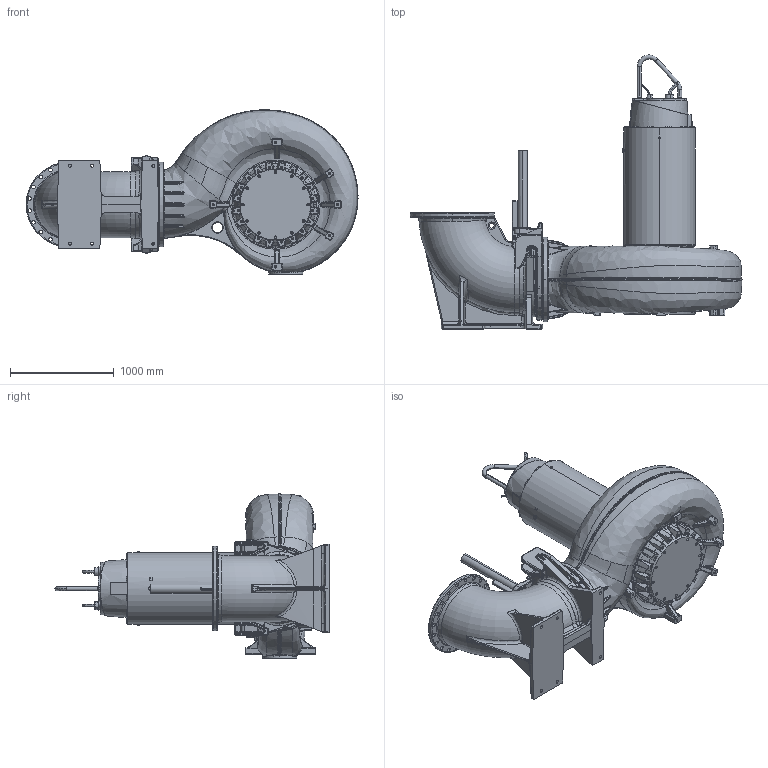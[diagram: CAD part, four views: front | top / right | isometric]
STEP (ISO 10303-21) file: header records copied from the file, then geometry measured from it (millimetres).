
FILE_DESCRIPTION (( 'STEP AP214' ), '1' );
FILE_NAME ('PE6_XFP600X-SK3_WET_B_NG2.STEP', '2017-03-30T08:39:45', ( '' ), ( '' ), 'SwSTEP 2.0', 'SolidWorks 2017', '' );
FILE_SCHEMA (( 'AUTOMOTIVE_DESIGN' ));
Length unit declared in the file: millimetre
Products named in the file (1): PE6_XFP600X-SK3_WET_B_NG2
Bounding box: 3196.1 x 2638.31 x 1582.72 mm (x, y, z)
Volume: 2146862648.2 mm3; surface area: 20782840.5 mm2
Topology: 4 solids, 38 shells, 4625 faces, 11196 edges, 6352 vertices
Faces by surface type: bspline 1451, cylinder 1320, plane 826, torus 391, cone 384, sphere 253
Entity records: 285474 total; most frequent: CARTESIAN_POINT 139539, ORIENTED_EDGE 21510, DIRECTION 17962, EDGE_CURVE 10755, AXIS2_PLACEMENT_3D 7563, VERTEX_POINT 6342, EDGE_LOOP 4913, UNCERTAINTY_MEASURE_WITH_UNIT 4631
